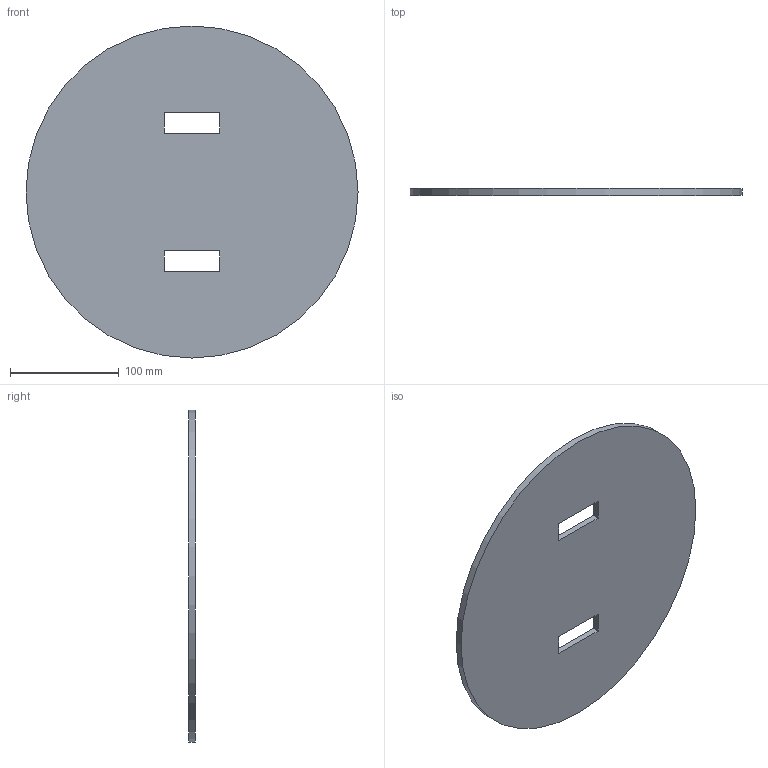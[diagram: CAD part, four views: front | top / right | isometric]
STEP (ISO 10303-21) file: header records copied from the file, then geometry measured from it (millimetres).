
FILE_DESCRIPTION(/* description */ (''),/* implementation_level */ '2;1');
FILE_NAME(/* name */ 'C:\Users\zachr\Desktop\3D printer stuff\Equi Mount Mk2\.25 Alum Base.stp',/* time_stamp */ '2018-03-29T20:15:37-05:00',/* author */ ('zachr'),/* organization */ (''),/* preprocessor_version */ 'ST-DEVELOPER v16.13',/* originating_system */ 'Autodesk Inventor 2018',/* authorisation */ '');
FILE_SCHEMA (('AUTOMOTIVE_DESIGN { 1 0 10303 214 3 1 1 }'));
Length unit declared in the file: inch
Products named in the file (1): .25 Alum Base
Bounding box: 304.8 x 6.35 x 304.8 mm (x, y, z)
Volume: 451043 mm3; surface area: 149915.5 mm2
Topology: 1 solids, 1 shells, 11 faces, 27 edges, 18 vertices
Faces by surface type: plane 10, cylinder 1
Full cylindrical faces by diameter (mm): 304.8 x1
Entity records: 367 total; most frequent: CARTESIAN_POINT 56, ORIENTED_EDGE 52, DIRECTION 52, EDGE_CURVE 26, LINE 24, VECTOR 24, VERTEX_POINT 18, EDGE_LOOP 16
